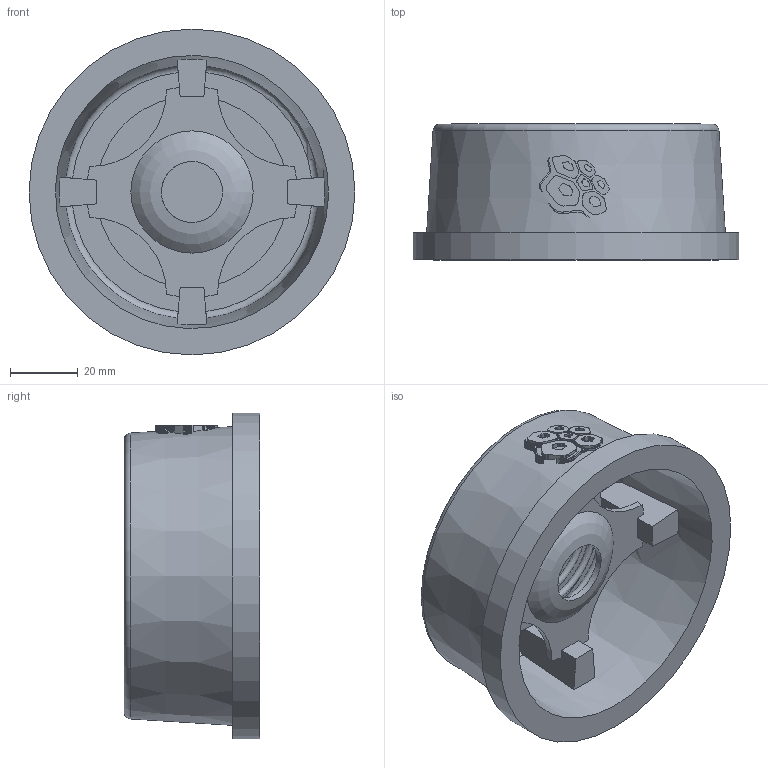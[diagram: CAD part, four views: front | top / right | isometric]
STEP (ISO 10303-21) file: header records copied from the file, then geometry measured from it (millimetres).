
FILE_DESCRIPTION(('STEP AP203'), '1');
FILE_NAME('3D_404-050-40', '', ('UNSPECIFIED'), ('UNSPECIFIED'), 'C3D Converter', 'C3D Toolkit', '');
FILE_SCHEMA(('CONFIG_CONTROL_DESIGN'));
Length unit declared in the file: millimetre
Bounding box: 96 x 40 x 96 mm (x, y, z)
Volume: 83131 mm3; surface area: 41794 mm2
Topology: 1 solids, 1 shells, 889 faces, 2616 edges, 1741 vertices
Faces by surface type: plane 854, cylinder 18, cone 9, torus 7, bspline 1
Full cylindrical faces by diameter (mm): 49 x1, 96 x1
Entity records: 40727 total; most frequent: CARTESIAN_POINT 11506, ORIENTED_EDGE 5212, DIRECTION 3619, EDGE_CURVE 2606, VERTEX_POINT 1740, LINE 1727, VECTOR 1727, AXIS2_PLACEMENT_3D 946
